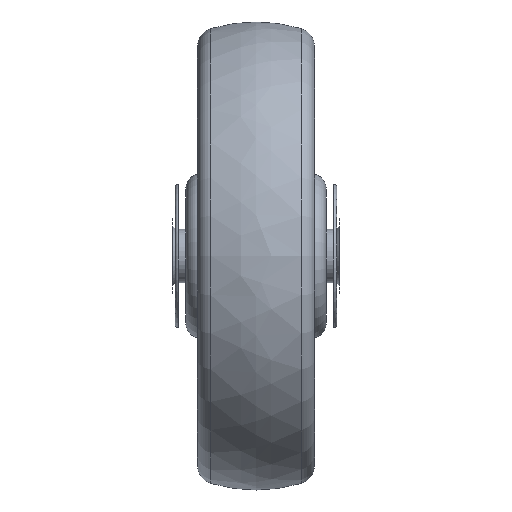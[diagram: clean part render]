
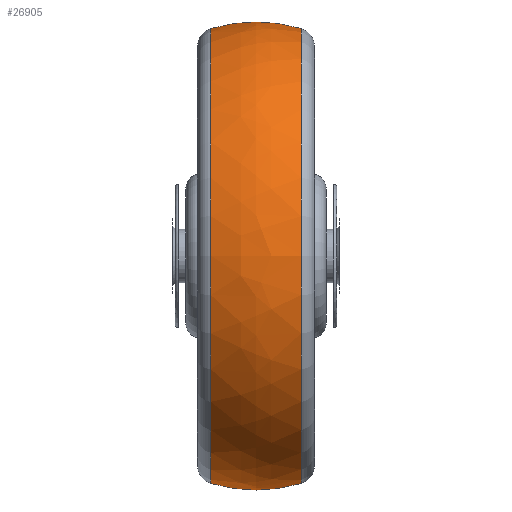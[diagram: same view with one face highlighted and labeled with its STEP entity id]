
A CAD part, top view. The second image highlights one B-rep face of the part: STEP entity #26905.
In plain terms, the highlighted free-form (B-spline) face has degree [3, 3] with [7, 4] control points.
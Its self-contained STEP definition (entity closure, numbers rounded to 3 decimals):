
#26691=CARTESIAN_POINT('',(0.,24.372,0.));
#26692=DIRECTION('',(0.,0.,1.));
#26693=DIRECTION('',(0.286,0.958,0.));
#26694=AXIS2_PLACEMENT_3D('',#26691,#26692,#26693);
#26701=CARTESIAN_POINT('',(0.,-24.372,0.));
#26702=DIRECTION('',(0.,0.,-1.));
#26703=DIRECTION('',(0.286,-0.958,0.));
#26704=AXIS2_PLACEMENT_3D('',#26701,#26702,#26703);
#26706=CARTESIAN_POINT('',(14.464,0.,0.));
#26707=DIRECTION('',(-1.,0.,0.));
#26708=DIRECTION('',(0.,-1.,0.));
#26709=AXIS2_PLACEMENT_3D('',#26706,#26707,#26708);
#26711=CARTESIAN_POINT('',(-14.464,0.,0.));
#26712=DIRECTION('',(-1.,0.,0.));
#26713=DIRECTION('',(0.,-1.,0.));
#26714=AXIS2_PLACEMENT_3D('',#26711,#26712,#26713);
#26759=CARTESIAN_POINT('',(14.464,72.89,0.));
#26760=CARTESIAN_POINT('',(14.464,-72.89,
0.));
#26761=VERTEX_POINT('',#26759);
#26762=VERTEX_POINT('',#26760);
#26771=CARTESIAN_POINT('',(-14.464,72.89,0.));
#26772=CARTESIAN_POINT('',(-14.464,-72.89,
0.));
#26773=VERTEX_POINT('',#26771);
#26774=VERTEX_POINT('',#26772);
#26868=CARTESIAN_POINT('',(-15.025,72.575,
-4.566));
#26869=CARTESIAN_POINT('',(-5.164,75.634,
-4.759));
#26870=CARTESIAN_POINT('',(5.164,75.634,
-4.759));
#26871=CARTESIAN_POINT('',(15.025,72.575,
-4.566));
#26872=CARTESIAN_POINT('',(-15.025,75.385,
40.097));
#26873=CARTESIAN_POINT('',(-5.164,78.563,
41.787));
#26874=CARTESIAN_POINT('',(5.164,78.563,41.787));
#26875=CARTESIAN_POINT('',(15.025,75.385,40.097));
#26876=CARTESIAN_POINT('',(-15.025,44.751,
72.719));
#26877=CARTESIAN_POINT('',(-5.164,46.637,
75.784));
#26878=CARTESIAN_POINT('',(5.164,46.637,75.784));
#26879=CARTESIAN_POINT('',(15.025,44.751,72.719));
#26880=CARTESIAN_POINT('',(-15.025,0.,72.719));
#26881=CARTESIAN_POINT('',(-5.164,0.,75.784));
#26882=CARTESIAN_POINT('',(5.164,0.,75.784));
#26883=CARTESIAN_POINT('',(15.025,0.,72.719));
#26884=CARTESIAN_POINT('',(-15.025,-44.751,
72.719));
#26885=CARTESIAN_POINT('',(-5.164,-46.637,
75.784));
#26886=CARTESIAN_POINT('',(5.164,-46.637,
75.784));
#26887=CARTESIAN_POINT('',(15.025,-44.751,
72.719));
#26888=CARTESIAN_POINT('',(-15.025,-75.385,
40.097));
#26889=CARTESIAN_POINT('',(-5.164,-78.563,
41.787));
#26890=CARTESIAN_POINT('',(5.164,-78.563,
41.787));
#26891=CARTESIAN_POINT('',(15.025,-75.385,
40.097));
#26892=CARTESIAN_POINT('',(-15.025,-72.575,
-4.566));
#26893=CARTESIAN_POINT('',(-5.164,-75.634,
-4.759));
#26894=CARTESIAN_POINT('',(5.164,-75.634,
-4.759));
#26895=CARTESIAN_POINT('',(15.025,-72.575,
-4.566));
#26896=(BOUNDED_SURFACE()B_SPLINE_SURFACE(3,3,((#26868,#26869,#26870,#26871),(
#26872,#26873,#26874,#26875),(#26876,#26877,#26878,#26879),(#26880,#26881,
#26882,#26883),(#26884,#26885,#26886,#26887),(#26888,#26889,#26890,#26891),(
#26892,#26893,#26894,#26895)),.UNSPECIFIED.,.F.,.F.,.F.)B_SPLINE_SURFACE_WITH_KNOTS((4,3,4),(4,4),(0.,1.,2.),(0.,1.),.UNSPECIFIED.)GEOMETRIC_REPRESENTATION_ITEM()RATIONAL_B_SPLINE_SURFACE(((1.215,1.178,
1.178,1.215),(0.959,0.93,
0.93,0.959),(0.959,0.93,
0.93,0.959),(1.215,1.178,
1.178,1.215),(0.959,0.93,
0.93,0.959),(0.959,0.93,
0.93,0.959),(1.215,1.178,
1.178,1.215)))REPRESENTATION_ITEM('')SURFACE());
#26898=ORIENTED_EDGE('',*,*,#26897,.F.);
#26899=ORIENTED_EDGE('',*,*,#26856,.T.);
#26901=ORIENTED_EDGE('',*,*,#26900,.T.);
#26902=ORIENTED_EDGE('',*,*,#26852,.F.);
#26903=EDGE_LOOP('',(#26898,#26899,#26901,#26902));
#26904=FACE_OUTER_BOUND('',#26903,.F.);
#26695=CIRCLE('',#26694,50.628);
#26705=CIRCLE('',#26704,50.628);
#26710=CIRCLE('',#26709,72.89);
#26715=CIRCLE('',#26714,72.89);
#26852=EDGE_CURVE('',#26761,#26773,#26695,.T.);
#26856=EDGE_CURVE('',#26762,#26774,#26705,.T.);
#26897=EDGE_CURVE('',#26762,#26761,#26710,.T.);
#26900=EDGE_CURVE('',#26774,#26773,#26715,.T.);
#26905=ADVANCED_FACE('',(#26904),#26896,.T.);
